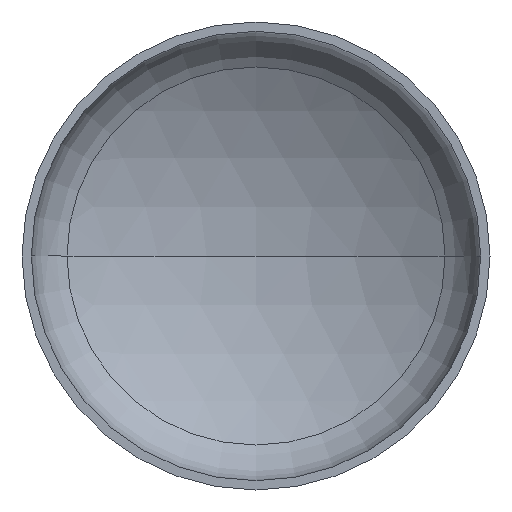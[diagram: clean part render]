
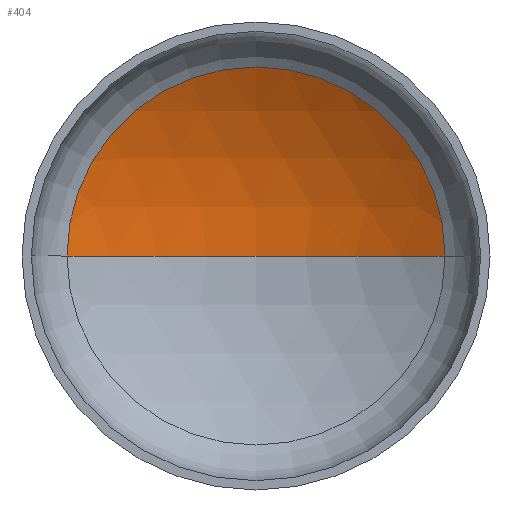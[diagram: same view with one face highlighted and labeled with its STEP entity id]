
A CAD part, front view. The second image highlights one B-rep face of the part: STEP entity #404.
In plain terms, the highlighted spherical face has radius 4400 mm.
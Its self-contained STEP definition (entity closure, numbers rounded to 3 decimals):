
#4 = VERTEX_POINT ( 'NONE', #311 ) ;
#14 = CARTESIAN_POINT ( 'NONE',  ( 0., 1406.45, 0. ) ) ;
#22 = ORIENTED_EDGE ( 'NONE', *, *, #188, .T. ) ;
#65 = ORIENTED_EDGE ( 'NONE', *, *, #191, .F. ) ;
#66 = AXIS2_PLACEMENT_3D ( 'NONE', #266, #308, #306 ) ;
#72 = AXIS2_PLACEMENT_3D ( 'NONE', #237, #245, #251 ) ;
#78 = AXIS2_PLACEMENT_3D ( 'NONE', #104, #80, #79 ) ;
#79 = DIRECTION ( 'NONE',  ( 1., 0., 0. ) ) ;
#80 = DIRECTION ( 'NONE',  ( 0., -1., 0. ) ) ;
#93 = VERTEX_POINT ( 'NONE', #14 ) ;
#102 = EDGE_LOOP ( 'NONE', ( #65, #22, #170 ) ) ;
#104 = CARTESIAN_POINT ( 'NONE',  ( 0., 804.374, 0. ) ) ;
#116 = DIRECTION ( 'NONE',  ( 0., 0., -1. ) ) ;
#134 = VERTEX_POINT ( 'NONE', #402 ) ;
#141 = CIRCLE ( 'NONE', #78, 2221.66 ) ;
#167 = FACE_OUTER_BOUND ( 'NONE', #102, .T. ) ;
#170 = ORIENTED_EDGE ( 'NONE', *, *, #185, .T. ) ;
#185 = EDGE_CURVE ( 'NONE', #134, #4, #141, .T. ) ;
#188 = EDGE_CURVE ( 'NONE', #93, #134, #408, .T. ) ;
#191 = EDGE_CURVE ( 'NONE', #93, #4, #287, .T. ) ;
#202 = DIRECTION ( 'NONE',  ( -1., 0., 0. ) ) ;
#237 = CARTESIAN_POINT ( 'NONE',  ( 0., -2993.55, 0. ) ) ;
#245 = DIRECTION ( 'NONE',  ( 0., 0., -1. ) ) ;
#251 = DIRECTION ( 'NONE',  ( -1., 0., 0. ) ) ;
#266 = CARTESIAN_POINT ( 'NONE',  ( 0., -2993.55, 0. ) ) ;
#287 = CIRCLE ( 'NONE', #66, 4400. ) ;
#300 = SPHERICAL_SURFACE ( 'NONE', #383, 4400. ) ;
#306 = DIRECTION ( 'NONE',  ( 1., 0., 0. ) ) ;
#308 = DIRECTION ( 'NONE',  ( 0., 0., 1. ) ) ;
#311 = CARTESIAN_POINT ( 'NONE',  ( -2221.66, 804.374, 0. ) ) ;
#383 = AXIS2_PLACEMENT_3D ( 'NONE', #391, #116, #202 ) ;
#391 = CARTESIAN_POINT ( 'NONE',  ( 0., -2993.55, 0. ) ) ;
#402 = CARTESIAN_POINT ( 'NONE',  ( 2221.66, 804.374, 0. ) ) ;
#404 = ADVANCED_FACE ( 'NONE', ( #167 ), #300, .F. ) ;
#408 = CIRCLE ( 'NONE', #72, 4400. ) ;
